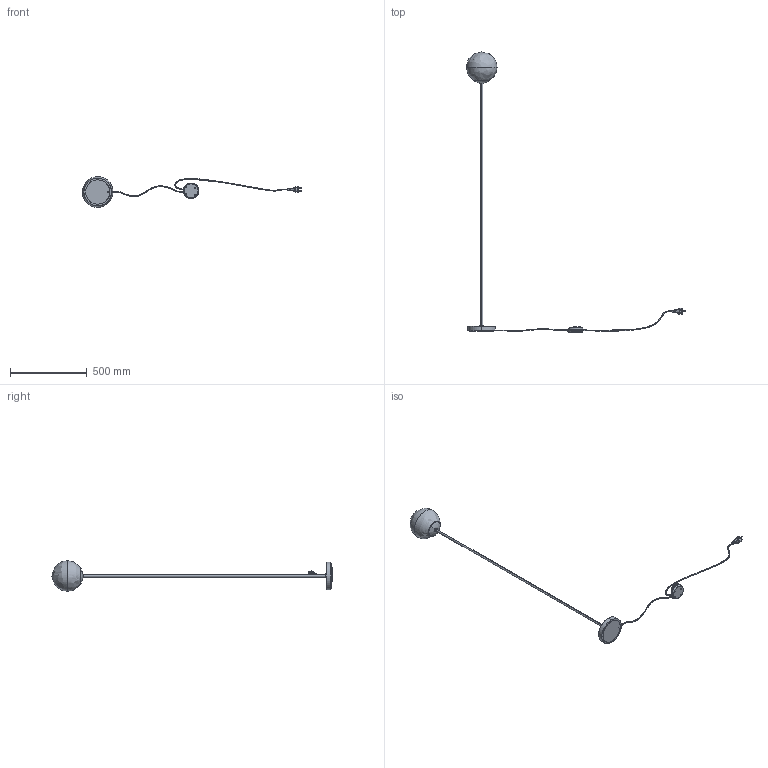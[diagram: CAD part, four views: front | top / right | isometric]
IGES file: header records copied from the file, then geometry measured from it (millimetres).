
Start section: SolidWorks IGES file using analytic representation for surfaces
Global section: file name: H:\Drive condivisi\Ufficio Tecnico\Graphics\Files 3D for Sito Web\Mod. 1081\Mod. 1081 H. 1,82_27.IGS; native system: SolidWorks 2023; preprocessor: SolidWorks 2023; author: Tecnico; date: 230627.141624; units: millimetre
Bounding box: 1430.49 x 1827.1 x 199.97 mm (x, y, z)
Surface area: 387193.3 mm2 (no closed solid volume)
Topology: 0 solids, 0 shells, 729 faces, 8161 edges, 8089 vertices
Faces by surface type: bspline 450, revolution 279
